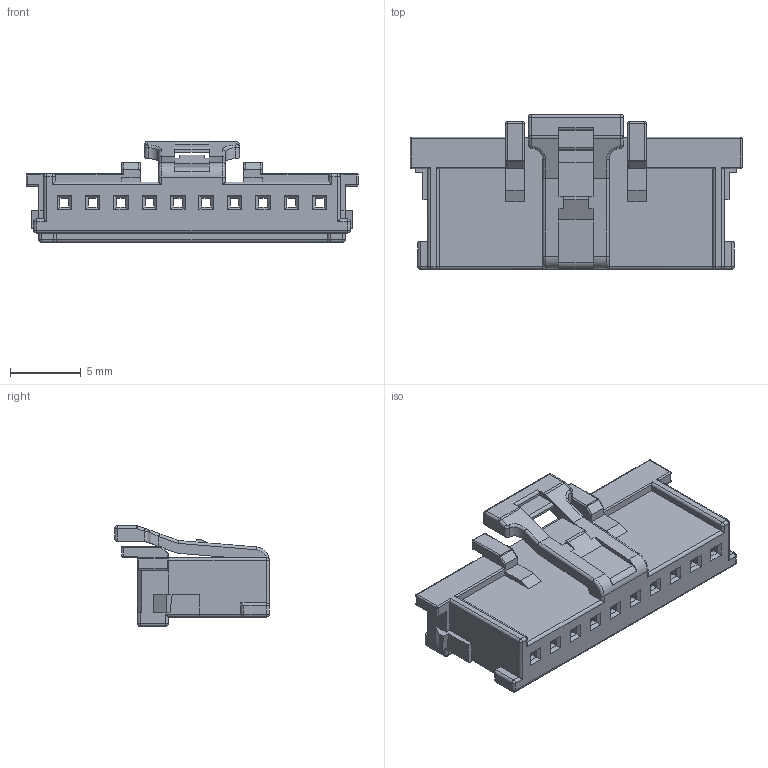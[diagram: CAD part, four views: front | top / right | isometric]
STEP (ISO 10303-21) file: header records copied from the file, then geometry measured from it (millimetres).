
FILE_DESCRIPTION (( 'STEP AP203' ), '1' );
FILE_NAME ('GT-A2031HM-110W01.STEP', '2025-12-28T05:57:42', ( '' ), ( '' ), 'SwSTEP 2.0', 'SolidWorks 2020', '' );
FILE_SCHEMA (( 'CONFIG_CONTROL_DESIGN' ));
Length unit declared in the file: millimetre
Products named in the file (1): GT-A2031HM-110W01
Bounding box: 23.4 x 10.9 x 7.1 mm (x, y, z)
Volume: 435.9 mm3; surface area: 1636.9 mm2
Topology: 1 solids, 1 shells, 1324 faces, 3498 edges, 2164 vertices
Faces by surface type: plane 1076, cylinder 131, bspline 77, sphere 38, torus 2
Entity records: 43940 total; most frequent: CARTESIAN_POINT 12105, ORIENTED_EDGE 6928, DIRECTION 5882, EDGE_CURVE 3464, VECTOR 2990, LINE 2990, VERTEX_POINT 2164, AXIS2_PLACEMENT_3D 1446
